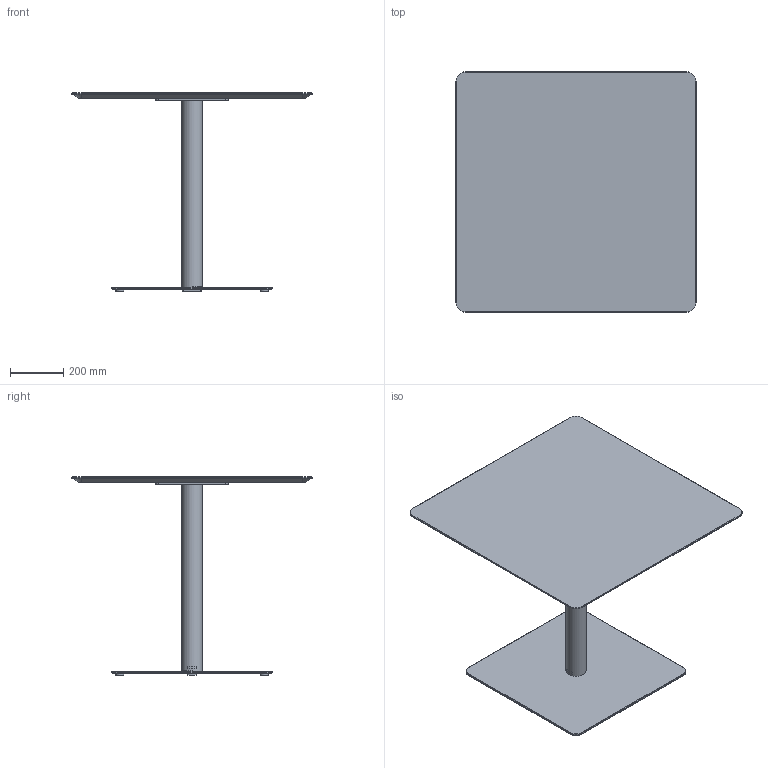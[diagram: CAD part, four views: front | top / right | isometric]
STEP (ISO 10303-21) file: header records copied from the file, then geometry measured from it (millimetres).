
FILE_DESCRIPTION( ('This file contains a STEP AP42 implementation' ,'as created by ZW3D STEP Interface translator.') ,'2;1' );
FILE_NAME( 'Henri - B_Carré - F3 - M5 - 900 x 900 x 750.stp' ,'24 912.171637', (''), ('ZWCAD Software Co.'), 'Version 1.0', 'ZW3D to STEP translator', '' );
FILE_SCHEMA(('AUTOMOTIVE_DESIGN { 1 0 10303 214 1 1 1 1 }'));
Length unit declared in the file: millimetre
Products named in the file (14): 0; PIED BISTROT PARAMETRIQUE_; COLONNE ACIER Ø76 V.02_; TUB-D076-02_; PLA-R76B-01_; CROIX ACIER 370 V.02_; CRX-X370-02_; SOCLE ACIER L 600x600 V.02_; SCL-R600-02_; PLA-R30A-01_; PLA-R30A-01; WUERTH 0276063020 Euro-screw 6.3x2 Verzinkt_; PLATEAU BISTROT PARAMETRIQUE_; insert_m6_13_
Assembly tree (22 placements, depth 3):
  0
  PIED BISTROT PARAMETRIQUE_
    COLONNE ACIER Ø76 V.02_
      TUB-D076-02_
      PLA-R76B-01_  x2
    CROIX ACIER 370 V.02_
      CRX-X370-02_
    SOCLE ACIER L 600x600 V.02_
      SCL-R600-02_
      PLA-R30A-01_
      PLA-R30A-01  x3
    WUERTH 0276063020 Euro-screw 6.3x2 Verzinkt_
    PLATEAU BISTROT PARAMETRIQUE_
      insert_m6_13_  x8
Bounding box: 900 x 900 x 744 mm (x, y, z)
Volume: 19307047.4 mm3; surface area: 2902786.9 mm2
Topology: 19 solids, 19 shells, 537 faces, 1310 edges, 822 vertices
Faces by surface type: plane 262, bspline 121, cylinder 98, cone 55, torus 1
Full cylindrical faces by diameter (mm): 4.88 x1, 6 x8, 6.3 x1, 8 x45, 12 x2, 14 x2, 30 x4, 72 x1, 76 x1
Entity records: 12310 total; most frequent: CARTESIAN_POINT 3396, ORIENTED_EDGE 1624, DIRECTION 1519, EDGE_CURVE 812, VERTEX_POINT 518, VECTOR 513, LINE 513, AXIS2_PLACEMENT_3D 503
